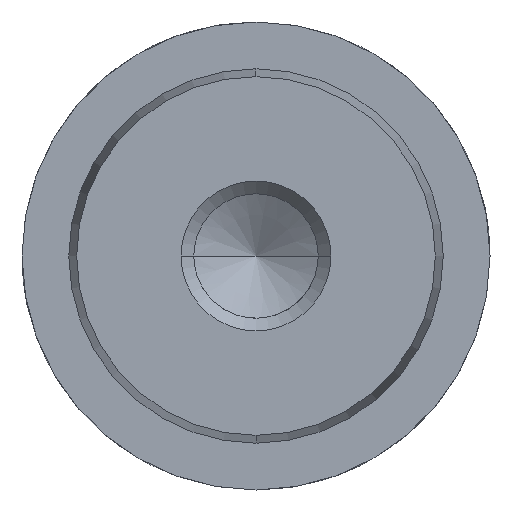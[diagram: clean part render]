
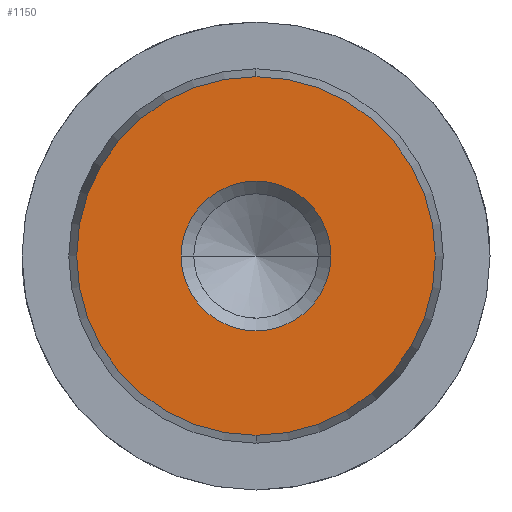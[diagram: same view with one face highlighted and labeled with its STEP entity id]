
A CAD part, left-side view. The second image highlights one B-rep face of the part: STEP entity #1150.
In plain terms, the highlighted planar face has unit normal (-1, 0, 0).
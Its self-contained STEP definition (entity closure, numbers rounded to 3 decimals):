
#1064=CARTESIAN_POINT('Vertex',(0.,0.,-9.578)) ;
#1067=CARTESIAN_POINT('Axis2P3D Location',(0.,0.,0.)) ;
#1071=CARTESIAN_POINT('Vertex',(0.,9.578,0.)) ;
#1074=CARTESIAN_POINT('Axis2P3D Location',(0.,0.,0.)) ;
#1078=CARTESIAN_POINT('Vertex',(0.,0.,9.578)) ;
#1100=CARTESIAN_POINT('Axis2P3D Location',(0.,0.,0.)) ;
#1104=CARTESIAN_POINT('Vertex',(0.,-9.578,0.)) ;
#1107=CARTESIAN_POINT('Axis2P3D Location',(0.,0.,0.)) ;
#1121=CARTESIAN_POINT('Axis2P3D Location',(0.,0.,0.)) ;
#1132=CARTESIAN_POINT('Axis2P3D Location',(0.,0.,0.)) ;
#1136=CARTESIAN_POINT('Vertex',(0.,4.,0.)) ;
#1138=CARTESIAN_POINT('Vertex',(0.,-4.,0.)) ;
#1141=CARTESIAN_POINT('Axis2P3D Location',(0.,0.,0.)) ;
#1068=DIRECTION('Axis2P3D Direction',(1.,0.,-0.)) ;
#1075=DIRECTION('Axis2P3D Direction',(1.,0.,-0.)) ;
#1101=DIRECTION('Axis2P3D Direction',(1.,0.,-0.)) ;
#1108=DIRECTION('Axis2P3D Direction',(1.,0.,-0.)) ;
#1122=DIRECTION('Axis2P3D Direction',(1.,0.,-0.)) ;
#1123=DIRECTION('Axis2P3D XDirection',(-0.,0.,-1.)) ;
#1133=DIRECTION('Axis2P3D Direction',(1.,0.,-0.)) ;
#1142=DIRECTION('Axis2P3D Direction',(1.,0.,-0.)) ;
#1069=AXIS2_PLACEMENT_3D('Circle Axis2P3D',#1067,#1068,$) ;
#1076=AXIS2_PLACEMENT_3D('Circle Axis2P3D',#1074,#1075,$) ;
#1102=AXIS2_PLACEMENT_3D('Circle Axis2P3D',#1100,#1101,$) ;
#1109=AXIS2_PLACEMENT_3D('Circle Axis2P3D',#1107,#1108,$) ;
#1124=AXIS2_PLACEMENT_3D('Plane Axis2P3D',#1121,#1122,#1123) ;
#1134=AXIS2_PLACEMENT_3D('Circle Axis2P3D',#1132,#1133,$) ;
#1143=AXIS2_PLACEMENT_3D('Circle Axis2P3D',#1141,#1142,$) ;
#1127=ORIENTED_EDGE('',*,*,#1073,.F.) ;
#1128=ORIENTED_EDGE('',*,*,#1111,.F.) ;
#1129=ORIENTED_EDGE('',*,*,#1106,.F.) ;
#1130=ORIENTED_EDGE('',*,*,#1080,.F.) ;
#1147=ORIENTED_EDGE('',*,*,#1140,.T.) ;
#1148=ORIENTED_EDGE('',*,*,#1145,.T.) ;
#1149=FACE_BOUND('',#1146,.T.) ;
#1150=ADVANCED_FACE('718-20x112',(#1131,#1149),#1125,.F.) ;
#1070=CIRCLE('generated circle',#1069,9.578) ;
#1077=CIRCLE('generated circle',#1076,9.578) ;
#1103=CIRCLE('generated circle',#1102,9.578) ;
#1110=CIRCLE('generated circle',#1109,9.578) ;
#1135=CIRCLE('generated circle',#1134,4.) ;
#1144=CIRCLE('generated circle',#1143,4.) ;
#1073=EDGE_CURVE('',#1065,#1072,#1070,.T.) ;
#1080=EDGE_CURVE('',#1072,#1079,#1077,.T.) ;
#1106=EDGE_CURVE('',#1079,#1105,#1103,.T.) ;
#1111=EDGE_CURVE('',#1105,#1065,#1110,.T.) ;
#1140=EDGE_CURVE('',#1137,#1139,#1135,.T.) ;
#1145=EDGE_CURVE('',#1139,#1137,#1144,.T.) ;
#1126=EDGE_LOOP('',(#1127,#1128,#1129,#1130)) ;
#1146=EDGE_LOOP('',(#1147,#1148)) ;
#1131=FACE_OUTER_BOUND('',#1126,.T.) ;
#1125=PLANE('Plane',#1124) ;
#1065=VERTEX_POINT('',#1064) ;
#1072=VERTEX_POINT('',#1071) ;
#1079=VERTEX_POINT('',#1078) ;
#1105=VERTEX_POINT('',#1104) ;
#1137=VERTEX_POINT('',#1136) ;
#1139=VERTEX_POINT('',#1138) ;
